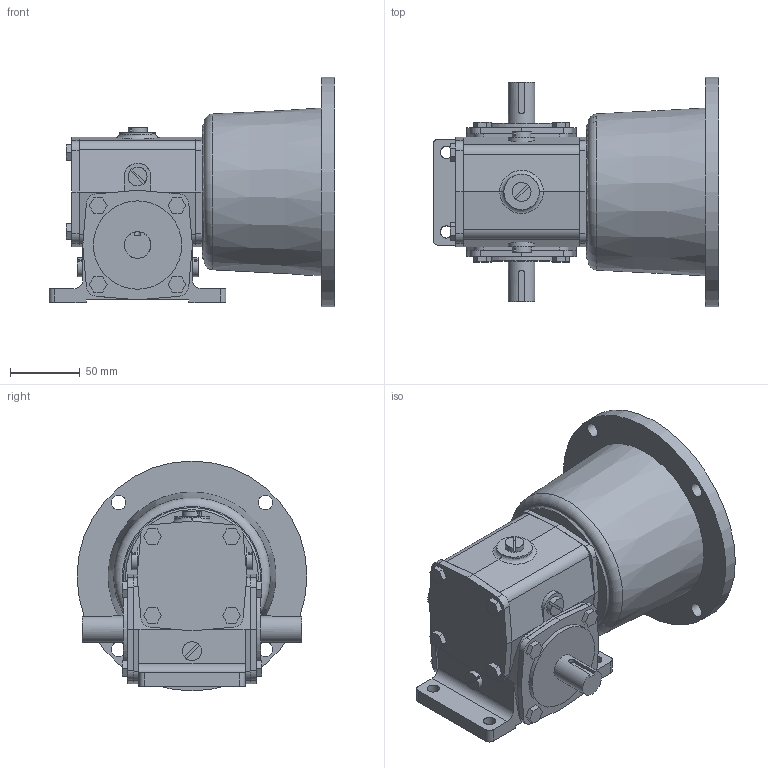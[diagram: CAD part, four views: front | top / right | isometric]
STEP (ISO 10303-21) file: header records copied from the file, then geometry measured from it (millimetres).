
FILE_DESCRIPTION(/* description */ ('Unknown'),/* implementation_level */ '2;1');
FILE_NAME(/* name */ 'HO-15-3--BNG010',/* time_stamp */ '2024-11-20T10:19:37-05:00',/* author */ ('Unknown'),/* organization */ ('Unknown'),/* preprocessor_version */ 'ST-DEVELOPER v19.4',/* originating_system */ 'Solid Edge',/* authorisation */ 'Unknown');
FILE_SCHEMA (('AUTOMOTIVE_DESIGN {1 0 10303 214 3 1 1}'));
Length unit declared in the file: millimetre
Products named in the file (5): HO-15-3--BNG010; 15-1-CP; 15-OUTS; 15-MTR45_56C; 15-OCAP_WCAP
Assembly tree (5 placements, depth 2):
  HO-15-3--BNG010
    15-1-CP
    15-OUTS  x2
    15-MTR45_56C
    15-OCAP_WCAP
Bounding box: 205.18 x 165.1 x 165.1 mm (x, y, z)
Volume: 1351425.7 mm3; surface area: 226044.3 mm2
Topology: 5 solids, 5 shells, 374 faces, 939 edges, 622 vertices
Faces by surface type: plane 280, cylinder 84, cone 4, torus 4, bspline 2
Full cylindrical faces by diameter (mm): 6.35 x8, 8.731 x4, 10.319 x4, 13.564 x5, 15.862 x1, 19.037 x3, 25.4 x1, 44.45 x1, 63.455 x3, 63.963 x1, 66.065 x8, 114.338 x1, 165.1 x1
Entity records: 12080 total; most frequent: CARTESIAN_POINT 4081, ORIENTED_EDGE 1488, DIRECTION 1157, EDGE_CURVE 744, VERTEX_POINT 513, EDGE_LOOP 419, FACE_BOUND 419, AXIS2_PLACEMENT_3D 414
